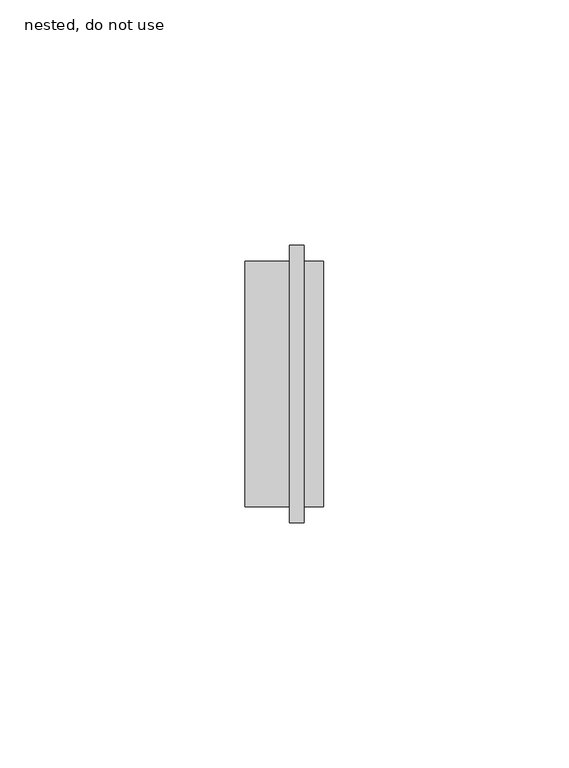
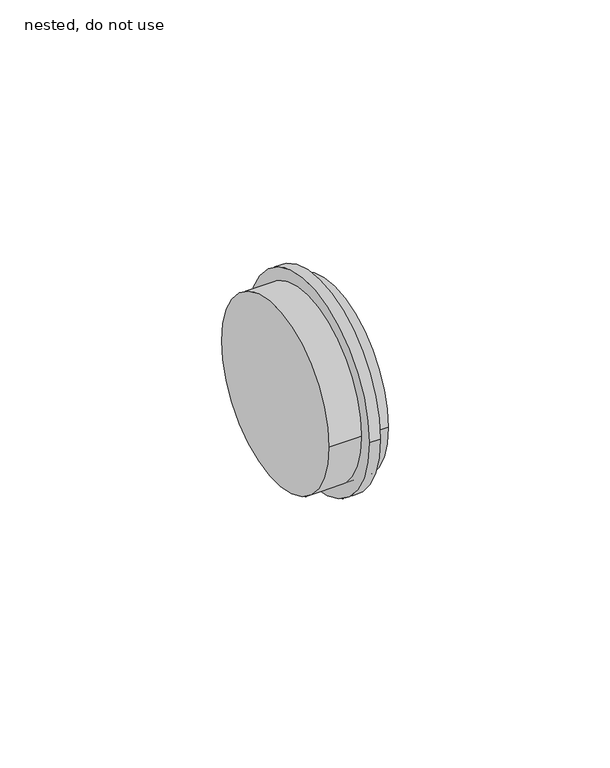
"""IFC4 building model written with IfcOpenShell, lengths in millimetres: pipe fitting geometry, NLRS_52_PIF_UN_HDPE end cap for inspection screw lock -SH_Akatherm : nested, do not use."""

from ifc_helpers import new_model, si_unit, point, frame, origin, origin_2d, place, context, project, spatial, circle_curve, trimmed, segment, composite_curve, outline, extrude, source, transform, mapped, element, save


def nested_do_not_use_d63bcd51(model_context):
    return source(origin(), model_context, "Body", "SweptSolid", [
        extrude(outline(composite_curve([segment(trimmed(circle_curve(origin_2d(), 28.25), [point((-28.25, 0.0))], [point((28.25, 0.0))], False, "CARTESIAN"), True, "CONTINUOUS"), segment(trimmed(circle_curve(origin_2d(), 28.25), [point((28.25, 0.0))], [point((-28.25, 0.0))], False, "CARTESIAN"), True, "CONTINUOUS")], self_intersect=False)), frame((9.0, 0.0, 0.0), z_axis=(1.0, 0.0, 0.0), x_axis=(0.0, 1.0, 0.0)), (0.0, 0.0, 1.0), 3.0),
        extrude(outline(composite_curve([segment(trimmed(circle_curve(origin_2d(), 25.0), [point((-25.0, 0.0))], [point((25.0, 0.0))], False, "CARTESIAN"), True, "CONTINUOUS"), segment(trimmed(circle_curve(origin_2d(), 25.0), [point((25.0, 0.0))], [point((-25.0, 0.0))], False, "CARTESIAN"), True, "CONTINUOUS")], self_intersect=False)), frame((0.0, 0.0, 0.0), z_axis=(1.0, 0.0, 0.0), x_axis=(0.0, 1.0, 0.0)), (0.0, 0.0, 1.0), 16.0),
    ])


if __name__ == "__main__":
    model = new_model("IFC4")
    model_context = context("Model", 3, world=origin())
    ifc_project = project(units=[si_unit("LENGTHUNIT", "METRE", prefix="MILLI")], contexts=[model_context])
    site = spatial("IfcSite", under=ifc_project)
    building = spatial("IfcBuilding", under=site)
    placement = place(None, origin())
    nested_do_not_use_shape = nested_do_not_use_d63bcd51(model_context)
    element("IfcPipeFitting", 1, ObjectType="NLRS_52_PIF_UN_HDPE end cap for inspection screw lock -SH_Akatherm : nested, do not use", at=placement, inside=building, context=model_context, shape_type="MappedRepresentation", body=[
        mapped(nested_do_not_use_shape, transform((0.0, 0.0, 0.0), x_axis=(1.0, 0.0, 0.0), y_axis=(0.0, 1.0, 0.0), z_axis=(0.0, 0.0, 1.0))),
    ])
    save(model, "model.ifc")
